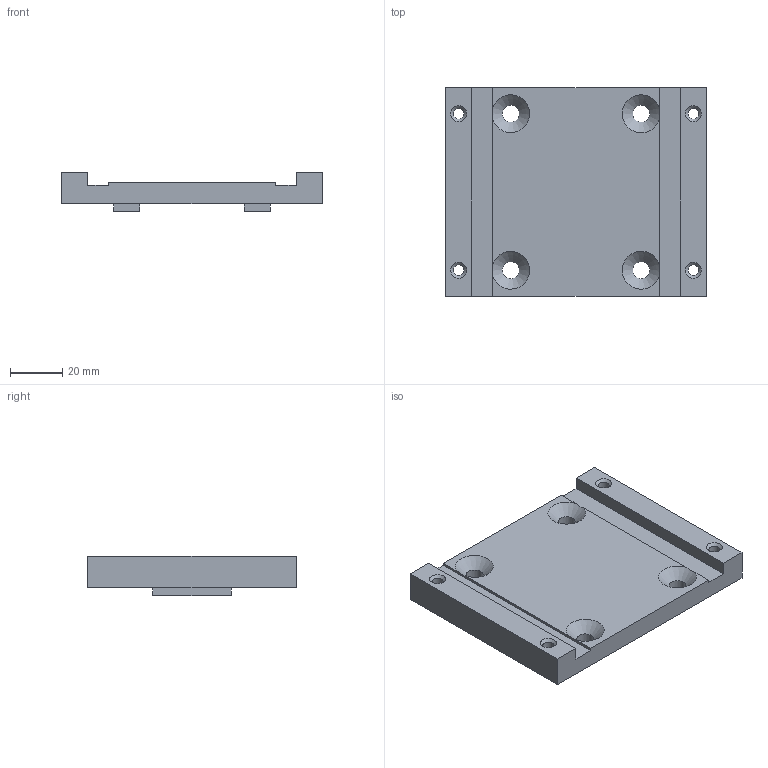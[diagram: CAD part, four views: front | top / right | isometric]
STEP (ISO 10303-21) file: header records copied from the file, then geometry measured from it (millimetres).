
FILE_DESCRIPTION(('STEP AP203'), '1');
FILE_NAME('ÒÏÏÔ1801.01.30.00.004 - Ïëîùàäêà ïðèâîäà', '', ('UNSPECIFIED'), ('UNSPECIFIED'), 'C3D Converter', 'C3D Toolkit', '');
FILE_SCHEMA(('CONFIG_CONTROL_DESIGN'));
Length unit declared in the file: millimetre
Products named in the file (1): ТППФ1801.01.30.00.004
Bounding box: 100 x 80 x 15 mm (x, y, z)
Volume: 68262.4 mm3; surface area: 21855.1 mm2
Topology: 1 solids, 1 shells, 40 faces, 112 edges, 72 vertices
Faces by surface type: plane 24, cylinder 8, cone 8
Full cylindrical faces by diameter (mm): 4.134 x4, 6.5 x4
Entity records: 1687 total; most frequent: CARTESIAN_POINT 323, DIRECTION 198, ORIENTED_EDGE 192, EDGE_CURVE 96, VERTEX_POINT 72, EDGE_LOOP 70, AXIS2_PLACEMENT_3D 67, LINE 64
